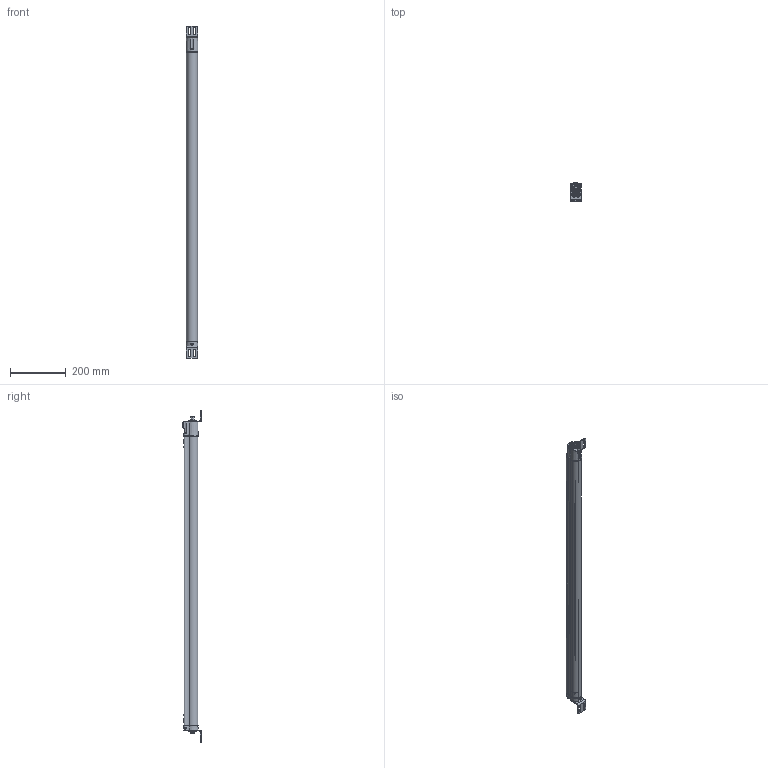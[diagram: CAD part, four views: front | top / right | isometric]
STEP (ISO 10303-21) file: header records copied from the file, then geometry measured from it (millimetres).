
FILE_DESCRIPTION((''),'2;1');
FILE_NAME('440L-F4J0800YD_SW0001','2024-07-31T15:57:29',('AKhan24'),('Rockwell Automation'),'CREO PARAMETRIC BY PTC INC, 2022424','CREO PARAMETRIC BY PTC INC, 2022424','');
FILE_SCHEMA(('AUTOMOTIVE_DESIGN { 1 0 10303 214 1 1 1 1 }'));
Products named in the file (1): 440L-F4J0800YD_SW0001
Bounding box: 42.01 x 66.8 x 1192 mm (x, y, z)
Volume: 551515.7 mm3; surface area: 473273.4 mm2
Topology: 1 solids, 1 shells, 1959 faces, 5040 edges, 3178 vertices
Faces by surface type: plane 770, cylinder 640, torus 216, cone 206, bspline 79, sphere 48
Entity records: 107677 total; most frequent: CARTESIAN_POINT 30456, DIRECTION 10376, ORIENTED_EDGE 10076, PRESENTATION_STYLE_ASSIGNMENT 6998, STYLED_ITEM 5039, CURVE_STYLE 5038, EDGE_CURVE 5038, AXIS2_PLACEMENT_3D 4054
